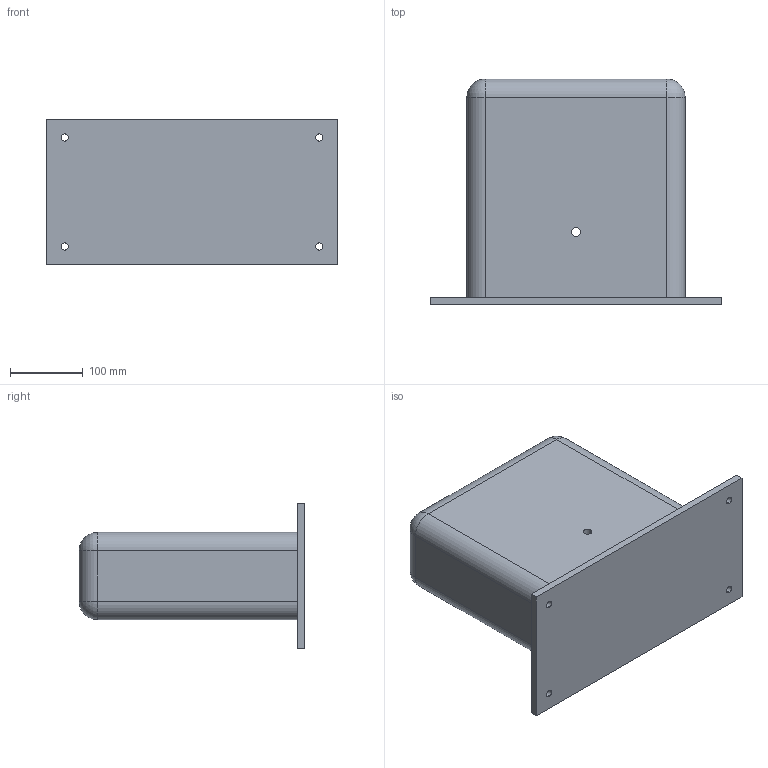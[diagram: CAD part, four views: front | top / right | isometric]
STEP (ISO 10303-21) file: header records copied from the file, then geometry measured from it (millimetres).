
FILE_DESCRIPTION (( 'STEP AP203' ), '1' );
FILE_NAME ('Bloc moteur.STEP', '2025-09-18T12:08:52', ( '' ), ( '' ), 'SwSTEP 2.0', 'SolidWorks 2019', '' );
FILE_SCHEMA (( 'CONFIG_CONTROL_DESIGN' ));
Length unit declared in the file: millimetre
Products named in the file (1): Bloc moteur
Bounding box: 400 x 310 x 200 mm (x, y, z)
Volume: 3458501.3 mm3; surface area: 658130.8 mm2
Topology: 1 solids, 1 shells, 53 faces, 128 edges, 72 vertices
Faces by surface type: cylinder 28, plane 17, sphere 8
Entity records: 1575 total; most frequent: DIRECTION 284, CARTESIAN_POINT 246, ORIENTED_EDGE 240, EDGE_CURVE 120, AXIS2_PLACEMENT_3D 110, VERTEX_POINT 72, EDGE_LOOP 66, LINE 64
